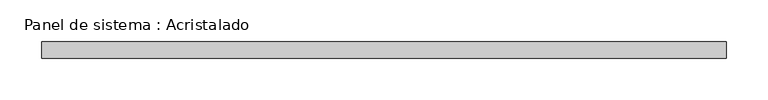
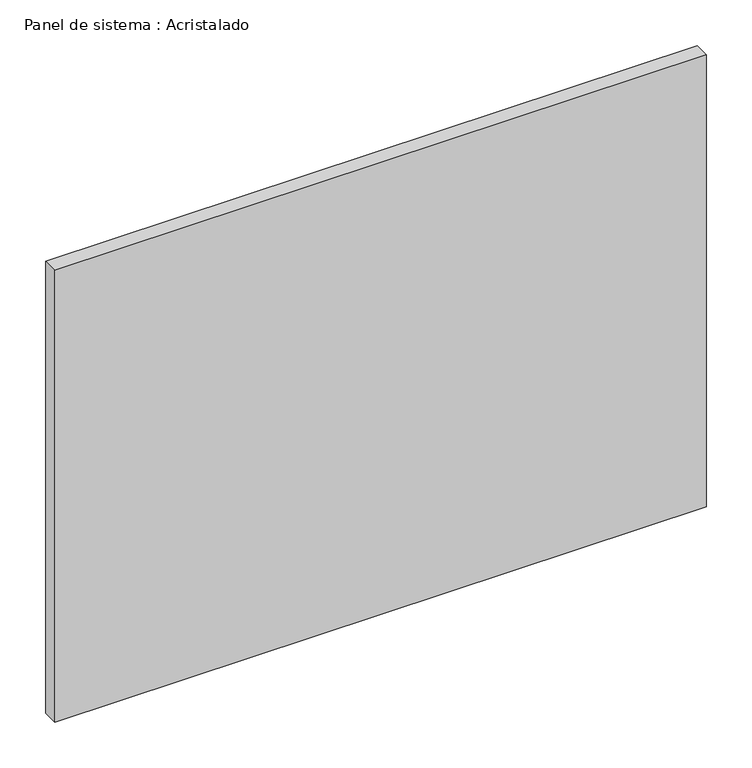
"""IFC4 building model written with IfcOpenShell, lengths in millimetres: plate geometry, Panel de sistema : Acristalado."""

from ifc_helpers import new_model, si_unit, origin, origin_with_axes, place, context, project, spatial, polyline, outline, extrude, source, transform, mapped, element, save


def panel_de_sistema_acristalado_e7a7bfe2(model_context):
    return source(origin(), model_context, "Body", "SweptSolid", [
        extrude(outline(polyline([(412.5, -10.0), (-412.5, -10.0), (-412.5, 10.0), (412.5, 10.0), (412.5, -10.0)])), origin_with_axes(), (0.0, 0.0, 1.0), 605.0),
    ])


if __name__ == "__main__":
    model = new_model("IFC4")
    model_context = context("Model", 3, world=origin())
    ifc_project = project(units=[si_unit("LENGTHUNIT", "METRE", prefix="MILLI")], contexts=[model_context])
    site = spatial("IfcSite", under=ifc_project)
    building = spatial("IfcBuilding", under=site)
    placement = place(None, origin())
    panel_de_sistema_acristalado_shape = panel_de_sistema_acristalado_e7a7bfe2(model_context)
    element("IfcPlate", 1, ObjectType="Panel de sistema : Acristalado", at=placement, inside=building, context=model_context, shape_type="MappedRepresentation", body=[
        mapped(panel_de_sistema_acristalado_shape, transform((0.0, 0.0, 0.0), x_axis=(1.0, 0.0, 0.0), y_axis=(0.0, 1.0, 0.0), z_axis=(0.0, 0.0, 1.0))),
    ])
    save(model, "model.ifc")
